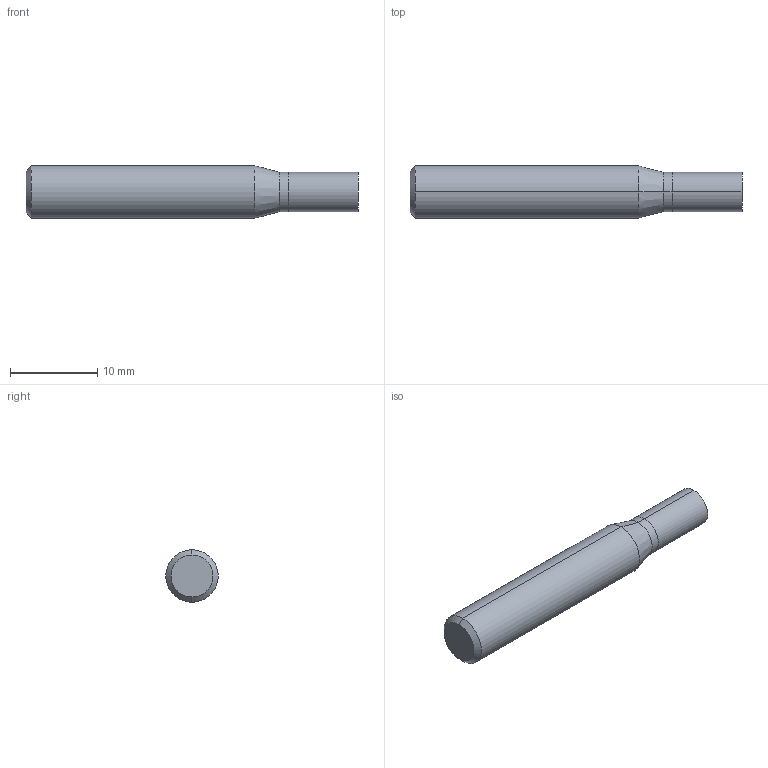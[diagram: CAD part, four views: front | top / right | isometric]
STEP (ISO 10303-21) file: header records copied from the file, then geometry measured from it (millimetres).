
FILE_DESCRIPTION (( 'STEP AP214' ), '1' );
FILE_NAME ('G9410045.STEP', '2018-07-02T09:11:40', ( '' ), ( '' ), 'SwSTEP 2.0', 'SolidWorks 2014', '' );
FILE_SCHEMA (( 'AUTOMOTIVE_DESIGN' ));
Length unit declared in the file: millimetre
Products named in the file (1): G9410045
Bounding box: 38 x 6 x 6 mm (x, y, z)
Volume: 941.8 mm3; surface area: 737.8 mm2
Topology: 2 solids, 2 shells, 14 faces, 24 edges, 14 vertices
Faces by surface type: cylinder 6, cone 4, plane 4
Entity records: 421 total; most frequent: DIRECTION 68, CARTESIAN_POINT 53, ORIENTED_EDGE 48, AXIS2_PLACEMENT_3D 29, EDGE_CURVE 24, EDGE_LOOP 14, ADVANCED_FACE 14, FACE_OUTER_BOUND 14
